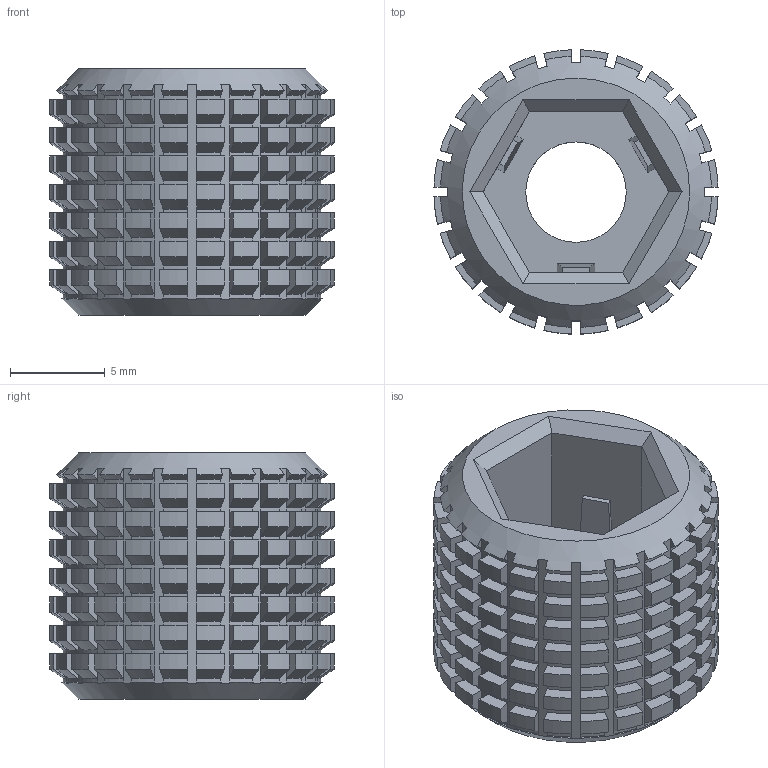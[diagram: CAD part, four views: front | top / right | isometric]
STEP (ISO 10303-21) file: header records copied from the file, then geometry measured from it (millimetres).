
FILE_DESCRIPTION(/* description */ ('STEP AP214'),/* implementation_level */ '2;1');
FILE_NAME(/* name */ '60a06c449d6dee12760d73ed',/* time_stamp */ '2021-05-16T00:50:14+00:00',/* author */ (''),/* organization */ (''),/* preprocessor_version */ 'ST-DEVELOPER v18.1',/* originating_system */ ' ',/* authorisation */ ' ');
FILE_SCHEMA (('AUTOMOTIVE_DESIGN {1 0 10303 214 3 1 1}'));
Length unit declared in the file: metre
Products named in the file (1): M5 Knob Square Knurl
Bounding box: 14.99 x 14.99 x 13 mm (x, y, z)
Volume: 1310.8 mm3; surface area: 1664.7 mm2
Topology: 1 solids, 1 shells, 1230 faces, 2909 edges, 1682 vertices
Faces by surface type: plane 675, cylinder 361, bspline 192, cone 2
Full cylindrical faces by diameter (mm): 5.3 x1
Entity records: 35428 total; most frequent: CARTESIAN_POINT 8715, ORIENTED_EDGE 5804, DIRECTION 5232, EDGE_CURVE 2902, AXIS2_PLACEMENT_3D 1811, VERTEX_POINT 1678, LINE 1610, VECTOR 1610
